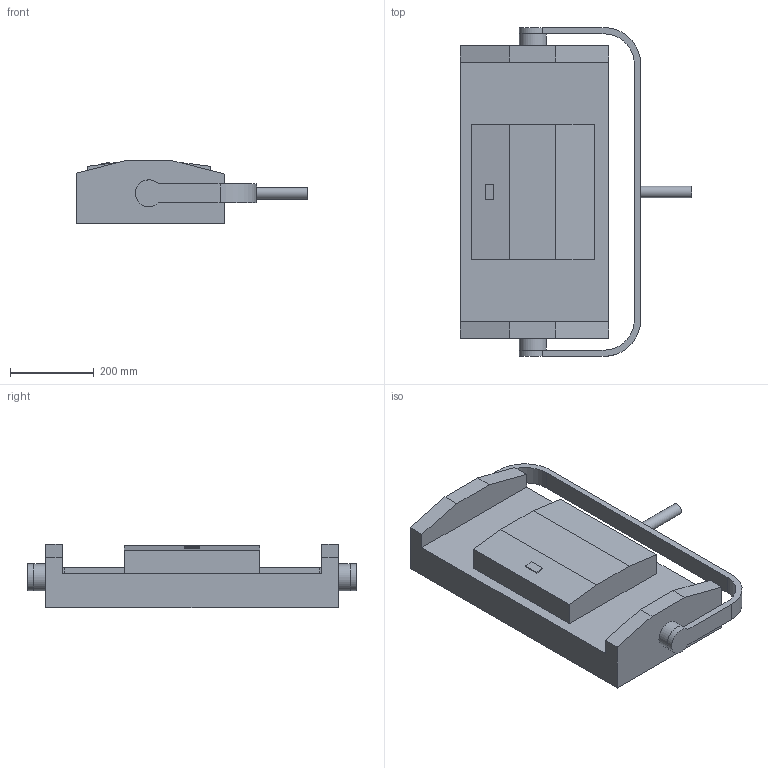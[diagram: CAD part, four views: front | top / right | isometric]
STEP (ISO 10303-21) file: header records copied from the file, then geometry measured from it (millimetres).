
FILE_DESCRIPTION(/* description */ (''),/* implementation_level */ '2;1');
FILE_NAME(/* name */ 'D:/dgooch/Documents/CADENG/PRO/onAir Panel 2 IP/0/3D/onAir Panel 2 IP_0.step',/* time_stamp */ '2021-03-01T14:45:28-05:00',/* author */ (''),/* organization */ (''),/* preprocessor_version */ 'ST-DEVELOPER v18.1',/* originating_system */ 'Autodesk Translation Framework v9.7.1.1290',/* authorisation */ '');
FILE_SCHEMA (('AUTOMOTIVE_DESIGN { 1 0 10303 214 3 1 1 }'));
Length unit declared in the file: millimetre
Products named in the file (3): onAirPanel2IP; Head; Bracket
Assembly tree (2 placements, depth 2):
  onAirPanel2IP
    Head
    Bracket
Bounding box: 554.11 x 786.9 x 150.82 mm (x, y, z)
Volume: 28571299.6 mm3; surface area: 1015849.1 mm2
Topology: 2 solids, 2 shells, 51 faces, 123 edges, 82 vertices
Faces by surface type: plane 42, cylinder 9
Full cylindrical faces by diameter (mm): 28 x1, 64.365 x2
Entity records: 1560 total; most frequent: CARTESIAN_POINT 261, DIRECTION 253, ORIENTED_EDGE 246, EDGE_CURVE 123, LINE 105, VECTOR 105, VERTEX_POINT 82, AXIS2_PLACEMENT_3D 74
